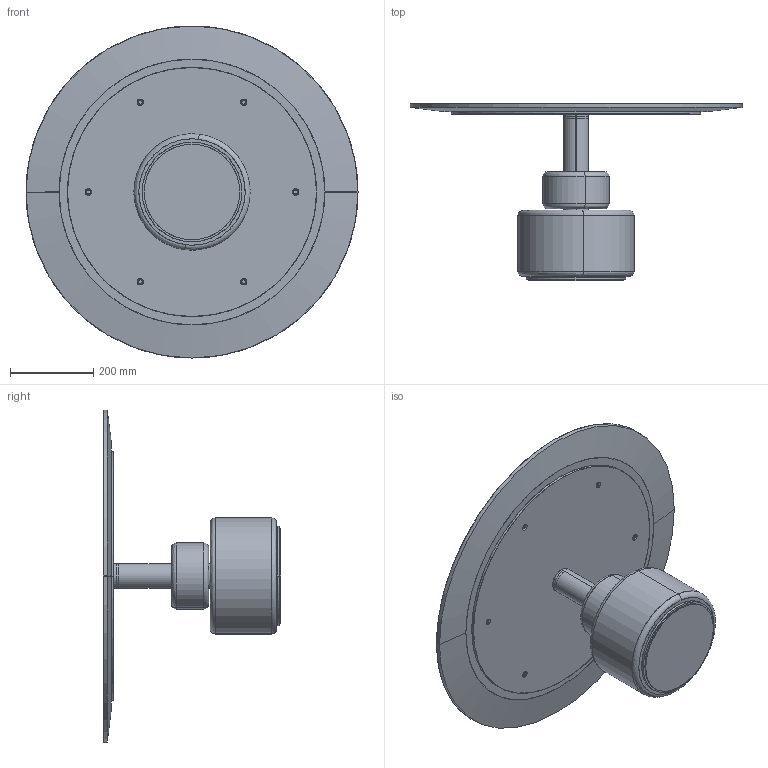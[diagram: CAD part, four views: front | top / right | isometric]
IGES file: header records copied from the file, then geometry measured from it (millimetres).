
Start section: SolidWorks IGES file using analytic representation for surfaces
Global section: file name: C:\Users\SoldaClaudio\Desktop\MENHIR\3D\004228.IGS; native system: SolidWorks 2019; preprocessor: SolidWorks 2019; author: SoldaClaudio; date: 201218.104243; units: millimetre
Bounding box: 800 x 428 x 800 mm (x, y, z)
Surface area: 2376409.8 mm2 (no closed solid volume)
Topology: 0 solids, 0 shells, 466 faces, 7556 edges, 7556 vertices
Faces by surface type: bspline 324, revolution 142
